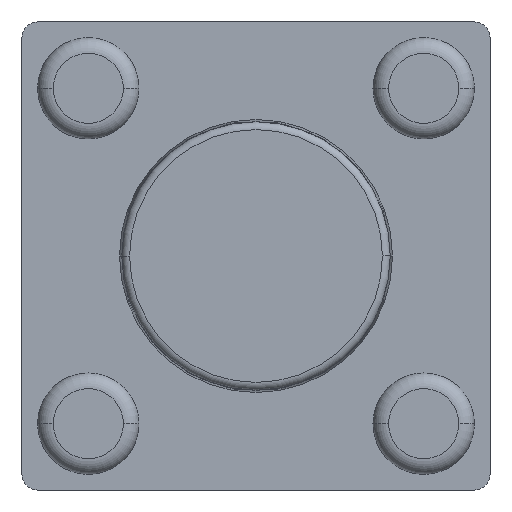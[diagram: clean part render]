
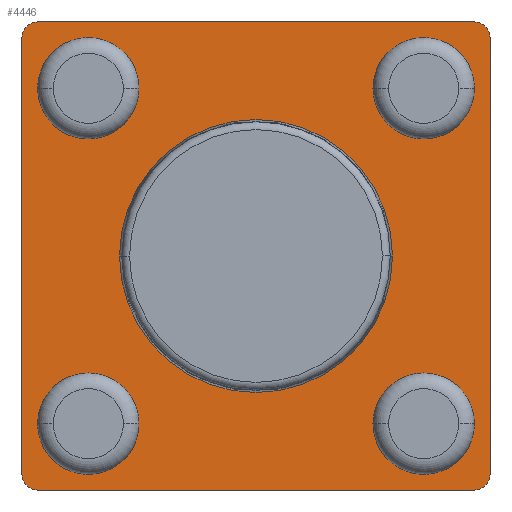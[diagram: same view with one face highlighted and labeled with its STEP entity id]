
A CAD part, front view. The second image highlights one B-rep face of the part: STEP entity #4446.
In plain terms, the highlighted planar face has unit normal (0, -1, 0).
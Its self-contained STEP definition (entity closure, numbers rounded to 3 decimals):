
#4091=CARTESIAN_POINT('',(-2.15,-0.3,-2.15));
#4092=DIRECTION('',(0.,-1.,0.));
#4093=DIRECTION('',(1.,0.,0.));
#4094=AXIS2_PLACEMENT_3D('',#4091,#4092,#4093);
#4096=CARTESIAN_POINT('',(-2.15,-0.3,-2.15));
#4097=DIRECTION('',(0.,-1.,0.));
#4098=DIRECTION('',(-1.,0.,0.));
#4099=AXIS2_PLACEMENT_3D('',#4096,#4097,#4098);
#4101=CARTESIAN_POINT('',(2.15,-0.3,-2.15));
#4102=DIRECTION('',(0.,-1.,0.));
#4103=DIRECTION('',(1.,0.,0.));
#4104=AXIS2_PLACEMENT_3D('',#4101,#4102,#4103);
#4106=CARTESIAN_POINT('',(2.15,-0.3,-2.15));
#4107=DIRECTION('',(0.,-1.,0.));
#4108=DIRECTION('',(-1.,0.,0.));
#4109=AXIS2_PLACEMENT_3D('',#4106,#4107,#4108);
#4111=CARTESIAN_POINT('',(2.15,-0.3,2.15));
#4112=DIRECTION('',(0.,-1.,0.));
#4113=DIRECTION('',(1.,0.,0.));
#4114=AXIS2_PLACEMENT_3D('',#4111,#4112,#4113);
#4116=CARTESIAN_POINT('',(2.15,-0.3,2.15));
#4117=DIRECTION('',(0.,-1.,0.));
#4118=DIRECTION('',(-1.,0.,0.));
#4119=AXIS2_PLACEMENT_3D('',#4116,#4117,#4118);
#4121=CARTESIAN_POINT('',(-2.15,-0.3,2.15));
#4122=DIRECTION('',(0.,-1.,0.));
#4123=DIRECTION('',(1.,0.,0.));
#4124=AXIS2_PLACEMENT_3D('',#4121,#4122,#4123);
#4126=CARTESIAN_POINT('',(-2.15,-0.3,2.15));
#4127=DIRECTION('',(0.,-1.,0.));
#4128=DIRECTION('',(-1.,0.,0.));
#4129=AXIS2_PLACEMENT_3D('',#4126,#4127,#4128);
#4131=CARTESIAN_POINT('',(0.,-0.3,0.));
#4132=DIRECTION('',(0.,-1.,0.));
#4133=DIRECTION('',(1.,0.,0.));
#4134=AXIS2_PLACEMENT_3D('',#4131,#4132,#4133);
#4136=CARTESIAN_POINT('',(0.,-0.3,0.));
#4137=DIRECTION('',(0.,-1.,0.));
#4138=DIRECTION('',(-1.,0.,0.));
#4139=AXIS2_PLACEMENT_3D('',#4136,#4137,#4138);
#4141=CARTESIAN_POINT('',(-2.8,-0.3,-2.8));
#4142=DIRECTION('',(0.,-1.,0.));
#4143=DIRECTION('',(-1.,0.,0.));
#4144=AXIS2_PLACEMENT_3D('',#4141,#4142,#4143);
#4146=DIRECTION('',(0.,0.,1.));
#4147=VECTOR('',#4146,5.6);
#4148=CARTESIAN_POINT('',(-3.,-0.3,-2.8));
#4149=LINE('',#4148,#4147);
#4150=CARTESIAN_POINT('',(-2.8,-0.3,2.8));
#4151=DIRECTION('',(0.,-1.,0.));
#4152=DIRECTION('',(0.,0.,1.));
#4153=AXIS2_PLACEMENT_3D('',#4150,#4151,#4152);
#4155=DIRECTION('',(1.,0.,0.));
#4156=VECTOR('',#4155,5.6);
#4157=CARTESIAN_POINT('',(-2.8,-0.3,3.));
#4158=LINE('',#4157,#4156);
#4159=CARTESIAN_POINT('',(2.8,-0.3,2.8));
#4160=DIRECTION('',(0.,-1.,0.));
#4161=DIRECTION('',(1.,0.,0.));
#4162=AXIS2_PLACEMENT_3D('',#4159,#4160,#4161);
#4164=DIRECTION('',(0.,0.,-1.));
#4165=VECTOR('',#4164,5.6);
#4166=CARTESIAN_POINT('',(3.,-0.3,2.8));
#4167=LINE('',#4166,#4165);
#4168=CARTESIAN_POINT('',(2.8,-0.3,-2.8));
#4169=DIRECTION('',(0.,-1.,0.));
#4170=DIRECTION('',(0.,0.,-1.));
#4171=AXIS2_PLACEMENT_3D('',#4168,#4169,#4170);
#4173=DIRECTION('',(-1.,0.,0.));
#4174=VECTOR('',#4173,5.6);
#4175=CARTESIAN_POINT('',(2.8,-0.3,-3.));
#4176=LINE('',#4175,#4174);
#4257=CARTESIAN_POINT('',(-1.75,-0.3,-2.15));
#4258=CARTESIAN_POINT('',(-2.55,-0.3,-2.15));
#4259=VERTEX_POINT('',#4257);
#4260=VERTEX_POINT('',#4258);
#4261=CARTESIAN_POINT('',(2.55,-0.3,-2.15));
#4262=CARTESIAN_POINT('',(1.75,-0.3,-2.15));
#4263=VERTEX_POINT('',#4261);
#4264=VERTEX_POINT('',#4262);
#4265=CARTESIAN_POINT('',(2.55,-0.3,2.15));
#4266=CARTESIAN_POINT('',(1.75,-0.3,2.15));
#4267=VERTEX_POINT('',#4265);
#4268=VERTEX_POINT('',#4266);
#4269=CARTESIAN_POINT('',(-1.75,-0.3,2.15));
#4270=CARTESIAN_POINT('',(-2.55,-0.3,2.15));
#4271=VERTEX_POINT('',#4269);
#4272=VERTEX_POINT('',#4270);
#4277=CARTESIAN_POINT('',(1.75,-0.3,0.));
#4278=CARTESIAN_POINT('',(-1.75,-0.3,0.));
#4279=VERTEX_POINT('',#4277);
#4280=VERTEX_POINT('',#4278);
#4285=CARTESIAN_POINT('',(-3.,-0.3,-2.8));
#4286=VERTEX_POINT('',#4285);
#4287=CARTESIAN_POINT('',(-2.8,-0.3,-3.));
#4288=VERTEX_POINT('',#4287);
#4293=CARTESIAN_POINT('',(-2.8,-0.3,3.));
#4294=VERTEX_POINT('',#4293);
#4295=CARTESIAN_POINT('',(-3.,-0.3,2.8));
#4296=VERTEX_POINT('',#4295);
#4301=CARTESIAN_POINT('',(3.,-0.3,2.8));
#4302=VERTEX_POINT('',#4301);
#4303=CARTESIAN_POINT('',(2.8,-0.3,3.));
#4304=VERTEX_POINT('',#4303);
#4309=CARTESIAN_POINT('',(2.8,-0.3,-3.));
#4310=VERTEX_POINT('',#4309);
#4311=CARTESIAN_POINT('',(3.,-0.3,-2.8));
#4312=VERTEX_POINT('',#4311);
#4395=CARTESIAN_POINT('',(0.,-0.3,0.));
#4396=DIRECTION('',(0.,1.,0.));
#4397=DIRECTION('',(1.,0.,0.));
#4398=AXIS2_PLACEMENT_3D('',#4395,#4396,#4397);
#4399=PLANE('',#4398);
#4401=ORIENTED_EDGE('',*,*,#4400,.F.);
#4403=ORIENTED_EDGE('',*,*,#4402,.T.);
#4405=ORIENTED_EDGE('',*,*,#4404,.F.);
#4407=ORIENTED_EDGE('',*,*,#4406,.T.);
#4409=ORIENTED_EDGE('',*,*,#4408,.F.);
#4411=ORIENTED_EDGE('',*,*,#4410,.T.);
#4413=ORIENTED_EDGE('',*,*,#4412,.F.);
#4415=ORIENTED_EDGE('',*,*,#4414,.T.);
#4416=EDGE_LOOP('',(#4401,#4403,#4405,#4407,#4409,#4411,#4413,#4415));
#4417=FACE_OUTER_BOUND('',#4416,.F.);
#4419=ORIENTED_EDGE('',*,*,#4418,.T.);
#4421=ORIENTED_EDGE('',*,*,#4420,.T.);
#4422=EDGE_LOOP('',(#4419,#4421));
#4423=FACE_BOUND('',#4422,.F.);
#4425=ORIENTED_EDGE('',*,*,#4424,.T.);
#4427=ORIENTED_EDGE('',*,*,#4426,.T.);
#4428=EDGE_LOOP('',(#4425,#4427));
#4429=FACE_BOUND('',#4428,.F.);
#4431=ORIENTED_EDGE('',*,*,#4430,.T.);
#4433=ORIENTED_EDGE('',*,*,#4432,.T.);
#4434=EDGE_LOOP('',(#4431,#4433));
#4435=FACE_BOUND('',#4434,.F.);
#4437=ORIENTED_EDGE('',*,*,#4436,.T.);
#4439=ORIENTED_EDGE('',*,*,#4438,.T.);
#4440=EDGE_LOOP('',(#4437,#4439));
#4441=FACE_BOUND('',#4440,.F.);
#4442=ORIENTED_EDGE('',*,*,#4375,.T.);
#4443=ORIENTED_EDGE('',*,*,#4389,.T.);
#4444=EDGE_LOOP('',(#4442,#4443));
#4445=FACE_BOUND('',#4444,.F.);
#4095=CIRCLE('',#4094,0.4);
#4100=CIRCLE('',#4099,0.4);
#4105=CIRCLE('',#4104,0.4);
#4110=CIRCLE('',#4109,0.4);
#4115=CIRCLE('',#4114,0.4);
#4120=CIRCLE('',#4119,0.4);
#4125=CIRCLE('',#4124,0.4);
#4130=CIRCLE('',#4129,0.4);
#4135=CIRCLE('',#4134,1.75);
#4140=CIRCLE('',#4139,1.75);
#4145=CIRCLE('',#4144,0.2);
#4154=CIRCLE('',#4153,0.2);
#4163=CIRCLE('',#4162,0.2);
#4172=CIRCLE('',#4171,0.2);
#4375=EDGE_CURVE('',#4259,#4260,#4095,.T.);
#4389=EDGE_CURVE('',#4260,#4259,#4100,.T.);
#4400=EDGE_CURVE('',#4286,#4288,#4145,.T.);
#4402=EDGE_CURVE('',#4286,#4296,#4149,.T.);
#4404=EDGE_CURVE('',#4294,#4296,#4154,.T.);
#4406=EDGE_CURVE('',#4294,#4304,#4158,.T.);
#4408=EDGE_CURVE('',#4302,#4304,#4163,.T.);
#4410=EDGE_CURVE('',#4302,#4312,#4167,.T.);
#4412=EDGE_CURVE('',#4310,#4312,#4172,.T.);
#4414=EDGE_CURVE('',#4310,#4288,#4176,.T.);
#4418=EDGE_CURVE('',#4263,#4264,#4105,.T.);
#4420=EDGE_CURVE('',#4264,#4263,#4110,.T.);
#4424=EDGE_CURVE('',#4267,#4268,#4115,.T.);
#4426=EDGE_CURVE('',#4268,#4267,#4120,.T.);
#4430=EDGE_CURVE('',#4271,#4272,#4125,.T.);
#4432=EDGE_CURVE('',#4272,#4271,#4130,.T.);
#4436=EDGE_CURVE('',#4279,#4280,#4135,.T.);
#4438=EDGE_CURVE('',#4280,#4279,#4140,.T.);
#4446=ADVANCED_FACE('',(#4417,#4423,#4429,#4435,#4441,#4445),#4399,.F.);
